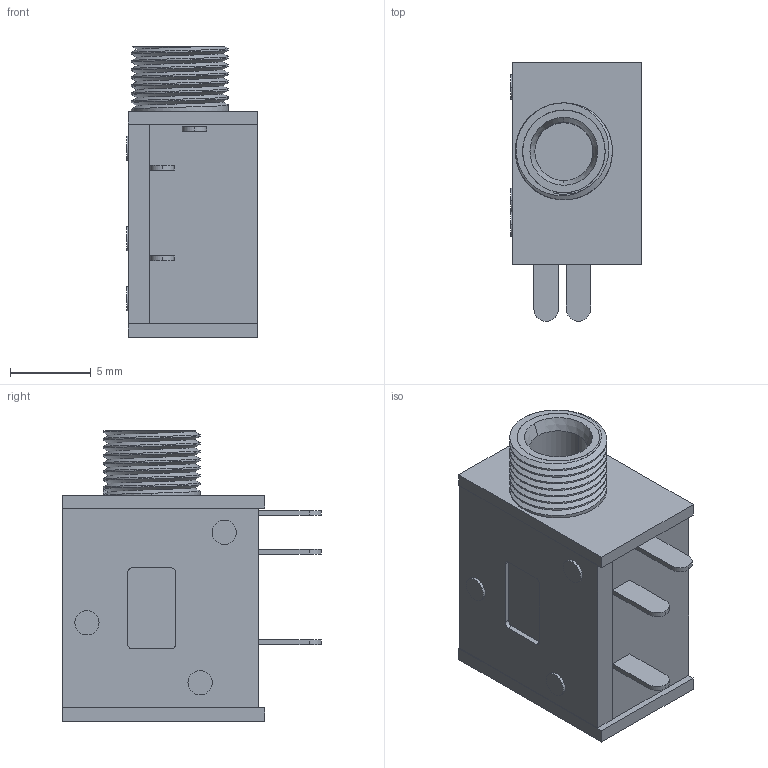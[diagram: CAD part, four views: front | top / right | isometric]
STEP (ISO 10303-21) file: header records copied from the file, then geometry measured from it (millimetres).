
FILE_DESCRIPTION (( 'STEP AP214' ), '1' );
FILE_NAME ('CUI_DEVICES_SJ1-3533.step', '2023-06-23T15:33:28', ( '' ), ( '' ), 'SwSTEP 2.0', 'SolidWorks 2023', '' );
FILE_SCHEMA (( 'AUTOMOTIVE_DESIGN' ));
Length unit declared in the file: millimetre
Products named in the file (1): CUI_DEVICES_SJ1-3533
Bounding box: 8.1 x 16 x 18 mm (x, y, z)
Volume: 1282.4 mm3; surface area: 1286.9 mm2
Topology: 4 solids, 4 shells, 89 faces, 216 edges, 143 vertices
Faces by surface type: plane 44, cylinder 39, bspline 4, cone 2
Entity records: 4335 total; most frequent: CARTESIAN_POINT 2232, ORIENTED_EDGE 432, DIRECTION 398, EDGE_CURVE 216, VERTEX_POINT 143, AXIS2_PLACEMENT_3D 138, VECTOR 122, LINE 122
